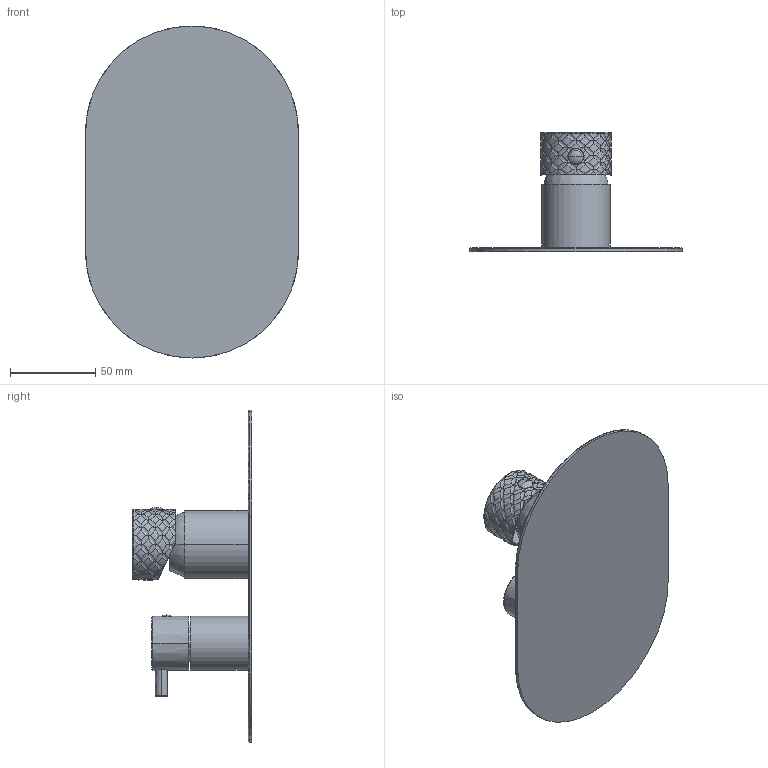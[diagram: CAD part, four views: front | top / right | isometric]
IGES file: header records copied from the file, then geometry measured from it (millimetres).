
Start section:  PTC IGES file: 12531S.igs
Global section: file name: 12531S.igs; native system: Creo Parametric by PTC Inc.; preprocessor: 2022014; author: carloff; organization: Unknown; date: 20250211.110530; units: millimetre
Bounding box: 125 x 70 x 195 mm (x, y, z)
Surface area: 65572.2 mm2 (no closed solid volume)
Topology: 0 solids, 0 shells, 410 faces, 2242 edges, 2234 vertices
Faces by surface type: bspline 232, revolution 178
